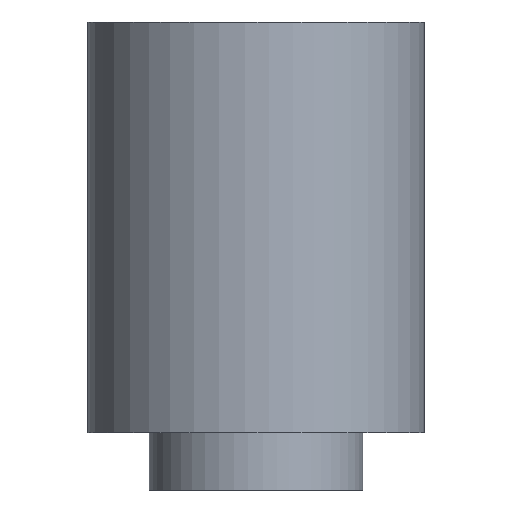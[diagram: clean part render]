
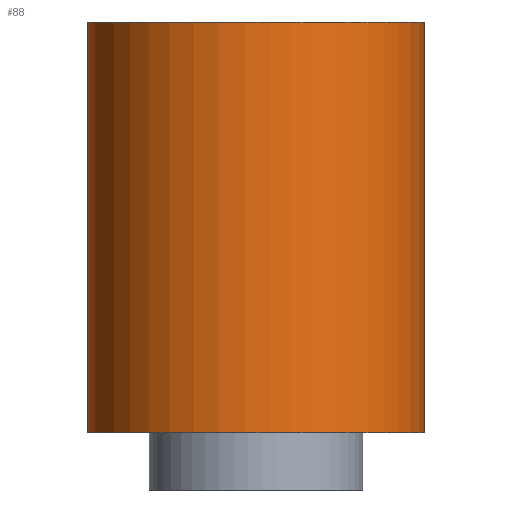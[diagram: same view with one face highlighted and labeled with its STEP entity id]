
A CAD part, front view. The second image highlights one B-rep face of the part: STEP entity #88.
In plain terms, the highlighted free-form (B-spline) face has degree [2, 1] with [7, 2] control points.
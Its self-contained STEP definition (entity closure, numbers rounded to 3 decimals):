
#69 = EDGE_CURVE('',#70,#70,#72,.T.);
#70 = VERTEX_POINT('',#71);
#71 = CARTESIAN_POINT('',(-4.1,0.,0.));
#72 = ( BOUNDED_CURVE() B_SPLINE_CURVE(2,(#73,#74,#75,#76,#77,#78,#79),
.UNSPECIFIED.,.T.,.F.) B_SPLINE_CURVE_WITH_KNOTS((1,2,2,2,2,1),(
    -2.094,0.,2.094,4.189,6.283,
8.378),.UNSPECIFIED.) CURVE() GEOMETRIC_REPRESENTATION_ITEM() 
RATIONAL_B_SPLINE_CURVE((1.,0.5,1.,0.5,1.,0.5,1.)) REPRESENTATION_ITEM(
  '') );
#73 = CARTESIAN_POINT('',(-4.1,0.,0.));
#74 = CARTESIAN_POINT('',(-4.1,7.101,0.));
#75 = CARTESIAN_POINT('',(2.05,3.551,0.));
#76 = CARTESIAN_POINT('',(8.2,0.,0.));
#77 = CARTESIAN_POINT('',(2.05,-3.551,0.));
#78 = CARTESIAN_POINT('',(-4.1,-7.101,0.));
#79 = CARTESIAN_POINT('',(-4.1,0.,0.));
#88 = ADVANCED_FACE('',(#89),#110,.T.);
#89 = FACE_BOUND('',#90,.T.);
#90 = EDGE_LOOP('',(#91,#103,#108,#109));
#91 = ORIENTED_EDGE('',*,*,#92,.T.);
#92 = EDGE_CURVE('',#93,#93,#95,.T.);
#93 = VERTEX_POINT('',#94);
#94 = CARTESIAN_POINT('',(-4.1,0.,10.));
#95 = ( BOUNDED_CURVE() B_SPLINE_CURVE(2,(#96,#97,#98,#99,#100,#101,#102
),.UNSPECIFIED.,.T.,.F.) B_SPLINE_CURVE_WITH_KNOTS((1,2,2,2,2,1),(
    -2.094,0.,2.094,4.189,6.283,
8.378),.UNSPECIFIED.) CURVE() GEOMETRIC_REPRESENTATION_ITEM() 
RATIONAL_B_SPLINE_CURVE((1.,0.5,1.,0.5,1.,0.5,1.)) REPRESENTATION_ITEM(
  '') );
#96 = CARTESIAN_POINT('',(-4.1,0.,10.));
#97 = CARTESIAN_POINT('',(-4.1,7.101,10.));
#98 = CARTESIAN_POINT('',(2.05,3.551,10.));
#99 = CARTESIAN_POINT('',(8.2,0.,10.));
#100 = CARTESIAN_POINT('',(2.05,-3.551,10.));
#101 = CARTESIAN_POINT('',(-4.1,-7.101,10.));
#102 = CARTESIAN_POINT('',(-4.1,0.,10.));
#103 = ORIENTED_EDGE('',*,*,#104,.F.);
#104 = EDGE_CURVE('',#70,#93,#105,.T.);
#105 = B_SPLINE_CURVE_WITH_KNOTS('',1,(#106,#107),.UNSPECIFIED.,.F.,.F.,
  (2,2),(0.,10.),.PIECEWISE_BEZIER_KNOTS.);
#106 = CARTESIAN_POINT('',(-4.1,0.,0.));
#107 = CARTESIAN_POINT('',(-4.1,0.,10.));
#108 = ORIENTED_EDGE('',*,*,#69,.F.);
#109 = ORIENTED_EDGE('',*,*,#104,.T.);
#110 = ( BOUNDED_SURFACE() B_SPLINE_SURFACE(2,1,(
    (#111,#112)
    ,(#113,#114)
    ,(#115,#116)
    ,(#117,#118)
    ,(#119,#120)
    ,(#121,#122)
,(#123,#124
    )),.UNSPECIFIED.,.T.,.F.,.F.) B_SPLINE_SURFACE_WITH_KNOTS((1,2,2,2,2
    ,1),(2,2),(-2.094,0.,2.094,4.189,
    6.283,8.378),(0.,10.),.UNSPECIFIED.) 
GEOMETRIC_REPRESENTATION_ITEM() RATIONAL_B_SPLINE_SURFACE((
    (1.,1.)
    ,(0.5,0.5)
    ,(1.,1.)
    ,(0.5,0.5)
    ,(1.,1.)
    ,(0.5,0.5)
,(1.,1.))) REPRESENTATION_ITEM('') SURFACE() );
#111 = CARTESIAN_POINT('',(-4.1,0.,0.));
#112 = CARTESIAN_POINT('',(-4.1,0.,10.));
#113 = CARTESIAN_POINT('',(-4.1,-7.101,0.));
#114 = CARTESIAN_POINT('',(-4.1,-7.101,10.));
#115 = CARTESIAN_POINT('',(2.05,-3.551,0.));
#116 = CARTESIAN_POINT('',(2.05,-3.551,10.));
#117 = CARTESIAN_POINT('',(8.2,0.,0.));
#118 = CARTESIAN_POINT('',(8.2,0.,10.));
#119 = CARTESIAN_POINT('',(2.05,3.551,0.));
#120 = CARTESIAN_POINT('',(2.05,3.551,10.));
#121 = CARTESIAN_POINT('',(-4.1,7.101,0.));
#122 = CARTESIAN_POINT('',(-4.1,7.101,10.));
#123 = CARTESIAN_POINT('',(-4.1,0.,0.));
#124 = CARTESIAN_POINT('',(-4.1,0.,10.));
